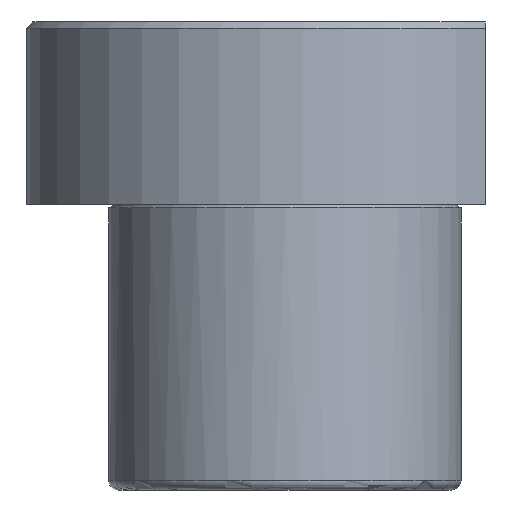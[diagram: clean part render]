
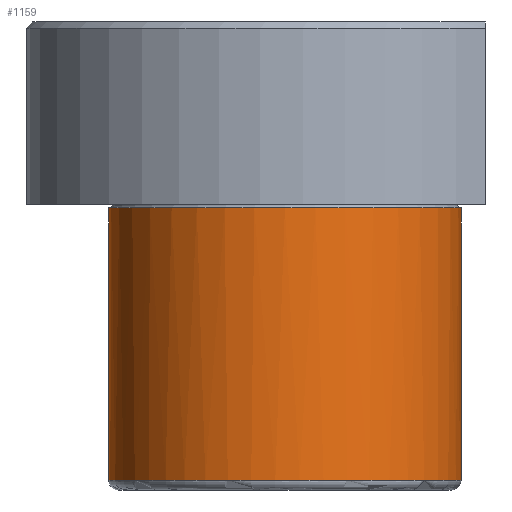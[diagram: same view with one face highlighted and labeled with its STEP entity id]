
A CAD part, front view. The second image highlights one B-rep face of the part: STEP entity #1159.
In plain terms, the highlighted cylindrical face has radius 29 mm (diameter 58 mm), a partial arc.
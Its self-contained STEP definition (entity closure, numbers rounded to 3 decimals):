
#971=CARTESIAN_POINT('Vertex',(29.,0.,-0.6)) ;
#973=CARTESIAN_POINT('Vertex',(-29.,0.,-0.6)) ;
#998=CARTESIAN_POINT('Axis2P3D Location',(0.,0.,-0.6)) ;
#1105=CARTESIAN_POINT('Line Origine',(-29.,0.,30.)) ;
#1109=CARTESIAN_POINT('Vertex',(-29.,0.,-45.4)) ;
#1112=CARTESIAN_POINT('Line Origine',(29.,0.,30.)) ;
#1116=CARTESIAN_POINT('Vertex',(29.,0.,-45.4)) ;
#1131=CARTESIAN_POINT('Axis2P3D Location',(0.,0.,30.)) ;
#1137=CARTESIAN_POINT('Control Point',(-29.,0.,-45.4)) ;
#1138=CARTESIAN_POINT('Control Point',(-29.,-4.555,-45.4)) ;
#1139=CARTESIAN_POINT('Control Point',(-28.106,-9.111,-45.4)) ;
#1140=CARTESIAN_POINT('Control Point',(-26.316,-13.431,-45.4)) ;
#1141=CARTESIAN_POINT('Control Point',(-21.139,-21.139,-45.4)) ;
#1142=CARTESIAN_POINT('Control Point',(-13.431,-26.316,-45.4)) ;
#1143=CARTESIAN_POINT('Control Point',(-9.111,-28.106,-45.4)) ;
#1144=CARTESIAN_POINT('Control Point',(0.,-29.894,-45.4)) ;
#1145=CARTESIAN_POINT('Control Point',(9.111,-28.106,-45.4)) ;
#1146=CARTESIAN_POINT('Control Point',(13.431,-26.316,-45.4)) ;
#1147=CARTESIAN_POINT('Control Point',(21.139,-21.139,-45.4)) ;
#1148=CARTESIAN_POINT('Control Point',(26.316,-13.431,-45.4)) ;
#1149=CARTESIAN_POINT('Control Point',(28.106,-9.111,-45.4)) ;
#1150=CARTESIAN_POINT('Control Point',(29.,-4.555,-45.4)) ;
#1151=CARTESIAN_POINT('Control Point',(29.,0.,-45.4)) ;
#999=DIRECTION('Axis2P3D Direction',(0.,-0.,1.)) ;
#1106=DIRECTION('Vector Direction',(0.,0.,-1.)) ;
#1113=DIRECTION('Vector Direction',(0.,0.,-1.)) ;
#1132=DIRECTION('Axis2P3D Direction',(0.,0.,-1.)) ;
#1133=DIRECTION('Axis2P3D XDirection',(1.,0.,0.)) ;
#1000=AXIS2_PLACEMENT_3D('Circle Axis2P3D',#998,#999,$) ;
#1134=AXIS2_PLACEMENT_3D('Cylinder Axis2P3D',#1131,#1132,#1133) ;
#1154=ORIENTED_EDGE('',*,*,#1118,.T.) ;
#1155=ORIENTED_EDGE('',*,*,#1002,.F.) ;
#1156=ORIENTED_EDGE('',*,*,#1111,.T.) ;
#1157=ORIENTED_EDGE('',*,*,#1152,.T.) ;
#1107=VECTOR('Line Direction',#1106,1.) ;
#1114=VECTOR('Line Direction',#1113,1.) ;
#1159=ADVANCED_FACE('737-38',(#1158),#1135,.T.) ;
#1136=B_SPLINE_CURVE_WITH_KNOTS('',5,(#1137,#1138,#1139,#1140,#1141,#1142,#1143,#1144,#1145,#1146,#1147,#1148,#1149,#1150,#1151),.UNSPECIFIED.,.F.,.U.,(6,3,3,3,6),(-45.553,-22.777,0.,22.777,45.553),.UNSPECIFIED.) ;
#1001=CIRCLE('generated circle',#1000,29.) ;
#1135=CYLINDRICAL_SURFACE('generated cylinder',#1134,29.) ;
#1002=EDGE_CURVE('',#974,#972,#1001,.T.) ;
#1111=EDGE_CURVE('',#974,#1110,#1108,.T.) ;
#1118=EDGE_CURVE('',#1117,#972,#1115,.F.) ;
#1152=EDGE_CURVE('',#1110,#1117,#1136,.T.) ;
#1153=EDGE_LOOP('',(#1154,#1155,#1156,#1157)) ;
#1158=FACE_OUTER_BOUND('',#1153,.T.) ;
#1108=LINE('Line',#1105,#1107) ;
#1115=LINE('Line',#1112,#1114) ;
#972=VERTEX_POINT('',#971) ;
#974=VERTEX_POINT('',#973) ;
#1110=VERTEX_POINT('',#1109) ;
#1117=VERTEX_POINT('',#1116) ;
